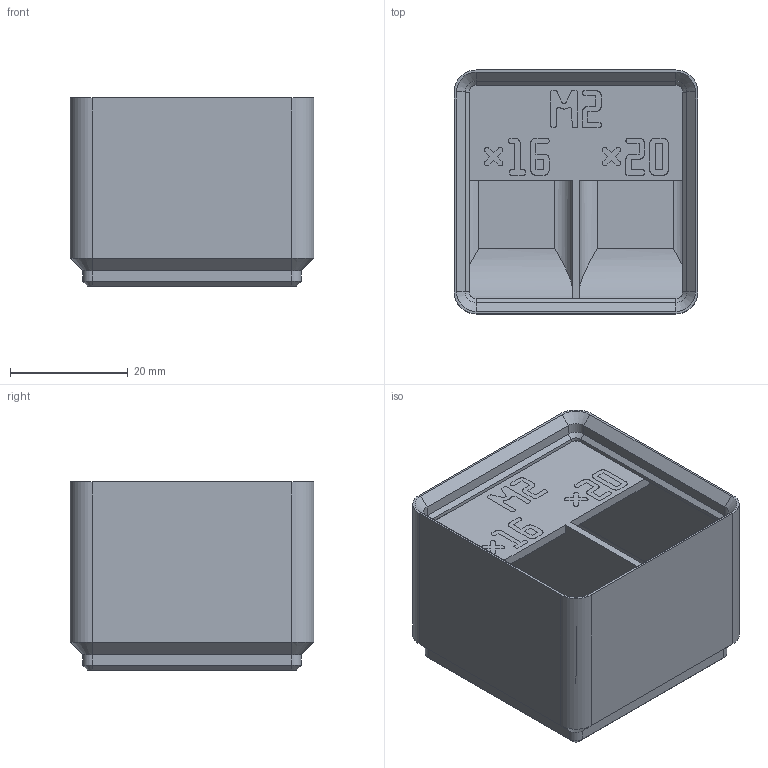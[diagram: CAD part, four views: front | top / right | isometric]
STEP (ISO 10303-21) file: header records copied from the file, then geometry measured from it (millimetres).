
FILE_DESCRIPTION(('Open CASCADE Model'),'2;1');
FILE_NAME('bin_M2_16-20','2026-11-03T10:51:52',('Author'),( 'Open CASCADE'),'Open CASCADE STEP processor 8.0','build123d', 'Unknown');
FILE_SCHEMA(('AUTOMOTIVE_DESIGN { 1 0 10303 214 1 1 1 1 }'));
Length unit declared in the file: millimetre
Products named in the file (3): bin_M2_16-20; M2_16-20_body; M2_16-20_label
Assembly tree (2 placements, depth 2):
  bin_M2_16-20
    M2_16-20_body
    M2_16-20_label
Bounding box: 41.5 x 41.5 x 32 mm (x, y, z)
Volume: 21988.3 mm3; surface area: 14226.7 mm2
Topology: 9 solids, 9 shells, 1721 faces, 5012 edges, 3320 vertices
Faces by surface type: plane 1677, cylinder 24, cone 20
Entity records: 121155 total; most frequent: CARTESIAN_POINT 20962, DIRECTION 18275, LINE 14708, VECTOR 14708, ORIENTED_EDGE 10024, PCURVE 10024, DEFINITIONAL_REPRESENTATION 10024, EDGE_CURVE 5012
